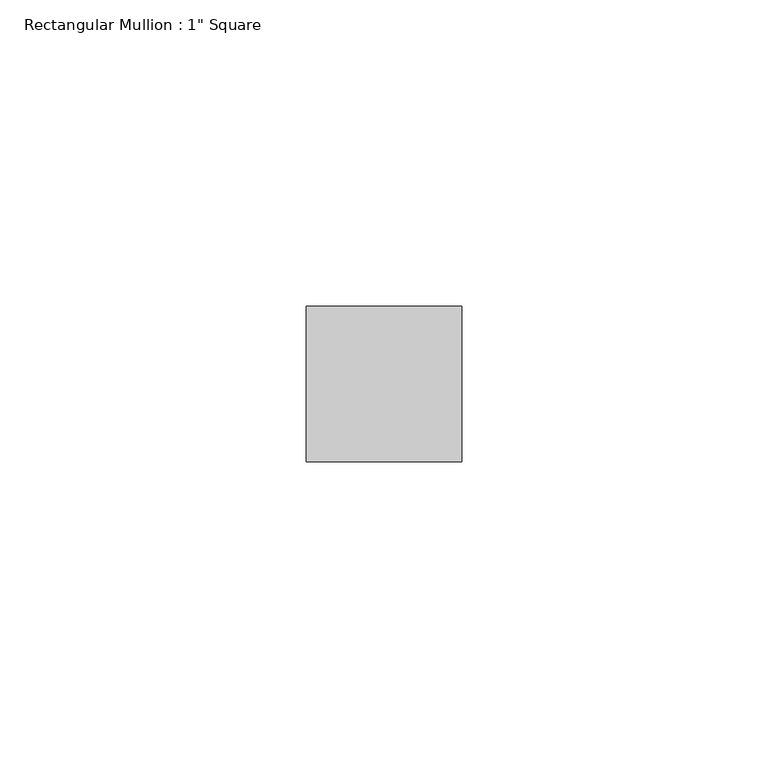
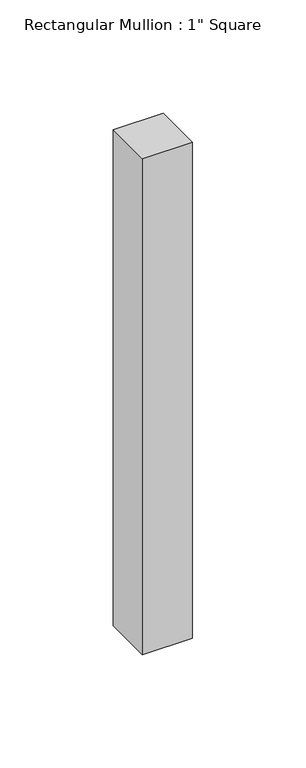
"""IFC4 building model written with IfcOpenShell, lengths in millimetres: member geometry."""

import ifcopenshell
import ifcopenshell.guid

model = None  # the IFC model being written
_history = None  # IfcOwnerHistory: only IFC2X3 demands one
_inside = {}  # id of a spatial element -> (the spatial element, [elements in it])
_under = {}  # id of a project, library or spatial element -> (it, [spatial elements below it])
_declared = {}  # id of a project -> (the project, [libraries it declares])
_typed = {}  # id of a type object -> (the type object, [elements of that type])
_made_of = {}  # id of a material, layer set ... -> (it, [elements and type objects made of it])


def new_model(schema):
    """Start an empty IFC model of exactly this schema.

    Asked for "IFC4X3", IfcOpenShell would pick the latest addendum, in which some entities
    have other attributes; the version numbers below select the first issue.
    IFC2X3 requires an IfcOwnerHistory on every rooted entity: one is made here for all.
    """
    global model, _history
    if schema == "IFC4X3":
        model = ifcopenshell.file(schema_version=(4, 3, 0, 0))
    else:
        model = ifcopenshell.file(schema=schema)
    _inside.clear()
    _under.clear()
    _declared.clear()
    _typed.clear()
    _made_of.clear()
    _history = None
    if model.schema == "IFC2X3":
        org = make("IfcOrganization", Name="unknown")
        user = make(
            "IfcPersonAndOrganization",
            ThePerson=make("IfcPerson", FamilyName="unknown"),
            TheOrganization=org,
        )
        app = make(
            "IfcApplication",
            ApplicationDeveloper=org,
            Version="unknown",
            ApplicationFullName="unknown",
            ApplicationIdentifier="unknown",
        )
        _history = make(
            "IfcOwnerHistory",
            OwningUser=user,
            OwningApplication=app,
            ChangeAction="ADDED",
            CreationDate=0,
        )
    return model


def make(cls, **values):
    """One entity of the class cls with the attributes given. An attribute that is None is left unset."""
    return model.create_entity(
        cls, **{name: value for name, value in values.items() if value is not None}
    )


def rooted(cls, **values):
    """An entity with a GlobalId (a new one), such as an element, a storey or a relation."""
    return make(cls, GlobalId=ifcopenshell.guid.new(), OwnerHistory=_history, **values)


def si_unit(unit_type, name, prefix=None):
    """IfcSIUnit, for example si_unit("LENGTHUNIT", "METRE", prefix="MILLI")."""
    return make("IfcSIUnit", UnitType=unit_type, Prefix=prefix, Name=name)


def assignment(units):
    """IfcUnitAssignment: the units of a project."""
    return None if units is None else make("IfcUnitAssignment", Units=units)


def point(xyz):
    """IfcCartesianPoint."""
    return None if xyz is None else make("IfcCartesianPoint", Coordinates=xyz)


def direction(xyz):
    """IfcDirection."""
    return None if xyz is None else make("IfcDirection", DirectionRatios=xyz)


def frame(location, z_axis=None, x_axis=None):
    """IfcAxis2Placement3D, a coordinate frame: its origin and axes. An axis left out is left unset."""
    return make(
        "IfcAxis2Placement3D",
        Location=point(location),
        Axis=direction(z_axis),
        RefDirection=direction(x_axis),
    )


def origin():
    """The frame at (0, 0, 0) with its axes left unset."""
    return frame((0.0, 0.0, 0.0))


def place(relative_to, where):
    """IfcLocalPlacement: puts the frame where relative to a parent placement (None: the world)."""
    return make(
        "IfcLocalPlacement", PlacementRelTo=relative_to, RelativePlacement=where
    )


def context(
    kind, dimensions, precision=None, world=None, true_north=None, identifier=None
):
    """IfcGeometricRepresentationContext, for example the 3D "Model" context."""
    return make(
        "IfcGeometricRepresentationContext",
        ContextIdentifier=identifier,
        ContextType=kind,
        CoordinateSpaceDimension=dimensions,
        Precision=precision,
        WorldCoordinateSystem=world,
        TrueNorth=true_north,
    )


def project(units=None, contexts=None):
    """IfcProject with its units and contexts."""
    return rooted(
        "IfcProject",
        Name="project",
        RepresentationContexts=contexts,
        UnitsInContext=assignment(units),
    )


def spatial(cls, under=None, at=None, **own):
    """A site, building, storey or space (cls), placed at a placement, below another one or the project."""
    s = rooted(cls, ObjectPlacement=at, **own)
    if under is not None:
        _under.setdefault(under.id(), (under, []))[1].append(s)
    return s


def polyline(points):
    """IfcPolyline through the points."""
    return make("IfcPolyline", Points=[point(p) for p in points])


def outline(outer, holes=None, kind="AREA"):
    """IfcArbitraryClosedProfileDef: a profile drawn as a closed curve; with holes, ...WithVoids."""
    if holes is None:
        return make("IfcArbitraryClosedProfileDef", ProfileType=kind, OuterCurve=outer)
    return make(
        "IfcArbitraryProfileDefWithVoids",
        ProfileType=kind,
        OuterCurve=outer,
        InnerCurves=holes,
    )


def extrude(swept, where, along, depth):
    """IfcExtrudedAreaSolid: the profile swept, set in the frame where, extruded along a direction by depth."""
    return make(
        "IfcExtrudedAreaSolid",
        SweptArea=swept,
        Position=where,
        ExtrudedDirection=direction(along),
        Depth=depth,
    )


def shape(context_of_items, identifier, shape_type, items):
    """IfcShapeRepresentation: the items that make up one representation, for example the "Body"."""
    return make(
        "IfcShapeRepresentation",
        ContextOfItems=context_of_items,
        RepresentationIdentifier=identifier,
        RepresentationType=shape_type,
        Items=items,
    )


def source(mapping_origin, context_of_items, identifier, shape_type, items):
    """IfcRepresentationMap: a shape defined once, which mapped items show again and again."""
    return make(
        "IfcRepresentationMap",
        MappingOrigin=mapping_origin,
        MappedRepresentation=shape(context_of_items, identifier, shape_type, items),
    )


def transform(
    local_origin,
    x_axis=None,
    y_axis=None,
    z_axis=None,
    scale=None,
    scale2=None,
    scale3=None,
    uniform=True,
):
    """IfcCartesianTransformationOperator3D, or its non-uniform kind. x_axis, y_axis, z_axis: its Axis1, 2, 3."""
    if uniform:
        return make(
            "IfcCartesianTransformationOperator3D",
            Axis1=direction(x_axis),
            Axis2=direction(y_axis),
            LocalOrigin=point(local_origin),
            Scale=scale,
            Axis3=direction(z_axis),
        )
    return make(
        "IfcCartesianTransformationOperator3DnonUniform",
        Axis1=direction(x_axis),
        Axis2=direction(y_axis),
        LocalOrigin=point(local_origin),
        Scale=scale,
        Axis3=direction(z_axis),
        Scale2=scale2,
        Scale3=scale3,
    )


def mapped(mapping_source, mapping_target):
    """IfcMappedItem: shows the shape of a source again, moved by a transform."""
    return make(
        "IfcMappedItem", MappingSource=mapping_source, MappingTarget=mapping_target
    )


def made_of(thing, what):
    """Note that an element or type object is made of a material, layer set ...; save() writes the relation."""
    if what is not None:
        _made_of.setdefault(what.id(), (what, []))[1].append(thing)
    return thing


def element(
    cls,
    number,
    at=None,
    inside=None,
    cuts=None,
    type_object=None,
    material=None,
    context=None,
    identifier="Body",
    shape_type=None,
    held_by="IfcProductDefinitionShape",
    body=None,
    shapes=None,
    **own,
):
    """One element of the class cls, such as IfcWall. Its Tag is "e" and its number.

    at: its placement. inside: the storey or other place that contains it. cuts: it is an
    opening in that element (IfcRelVoidsElement). A single representation is given by context,
    identifier, shape_type and body (its items); several are given by shapes. held_by: the class
    of the entity that holds the representations. save() writes the other relations.
    """
    e = rooted(cls, Tag="e%d" % number, ObjectPlacement=at, **own)
    if body is not None:
        shapes = [shape(context, identifier, shape_type, body)]
    if shapes is not None:
        e.Representation = make(held_by, Representations=shapes)
    if inside is not None:
        _inside.setdefault(inside.id(), (inside, []))[1].append(e)
    if cuts is not None:
        rooted(
            "IfcRelVoidsElement", RelatingBuildingElement=cuts, RelatedOpeningElement=e
        )
    if type_object is not None:
        _typed.setdefault(type_object.id(), (type_object, []))[1].append(e)
    return made_of(e, material)


def aggregate(whole, parts):
    """IfcRelAggregates: a whole, such as a stair, and the parts it consists of."""
    return rooted("IfcRelAggregates", RelatingObject=whole, RelatedObjects=parts)


def save(model, path):
    """Write the relations noted so far, then the file.

    IfcRelAggregates (storeys below a building ...), IfcRelContainedInSpatialStructure (elements
    in a storey), IfcRelDefinesByType, IfcRelAssociatesMaterial and IfcRelDeclares: one each for
    every whole, place, type object, material and project.
    """
    for whole, parts in _under.values():
        aggregate(whole, parts)
    for where, things in _inside.values():
        rooted(
            "IfcRelContainedInSpatialStructure",
            RelatedElements=things,
            RelatingStructure=where,
        )
    for kind, things in _typed.values():
        rooted("IfcRelDefinesByType", RelatedObjects=things, RelatingType=kind)
    for what, things in _made_of.values():
        rooted("IfcRelAssociatesMaterial", RelatedObjects=things, RelatingMaterial=what)
    for by, libraries in _declared.values():
        rooted("IfcRelDeclares", RelatingContext=by, RelatedDefinitions=libraries)
    model.write(path)


def member_355504b0(model_context):
    return source(origin(), model_context, "Body", "SweptSolid", [
        extrude(outline(polyline([(12.7, 12.7), (12.7, -12.7), (-12.7, -12.7), (-12.7, 12.7), (12.7, 12.7)])), frame((0.0, 0.0, -266.8028398), z_axis=(0.0, 0.0, 1.0), x_axis=(1.0, 0.0, 0.0)), (0.0, 0.0, 1.0), 266.8028398),
    ])


if __name__ == "__main__":
    model = new_model("IFC4")
    model_context = context("Model", 3, world=origin())
    ifc_project = project(units=[si_unit("LENGTHUNIT", "METRE", prefix="MILLI")], contexts=[model_context])
    site = spatial("IfcSite", under=ifc_project)
    building = spatial("IfcBuilding", under=site)
    placement = place(None, origin())
    member_shape = member_355504b0(model_context)
    element("IfcMember", 1, ObjectType="Rectangular Mullion : 1\" Square", at=placement, inside=building, context=model_context, shape_type="MappedRepresentation", body=[
        mapped(member_shape, transform((0.0, 0.0, 0.0), x_axis=(1.0, 0.0, 0.0), y_axis=(0.0, 1.0, 0.0), z_axis=(0.0, 0.0, 1.0))),
    ])
    save(model, "model.ifc")
